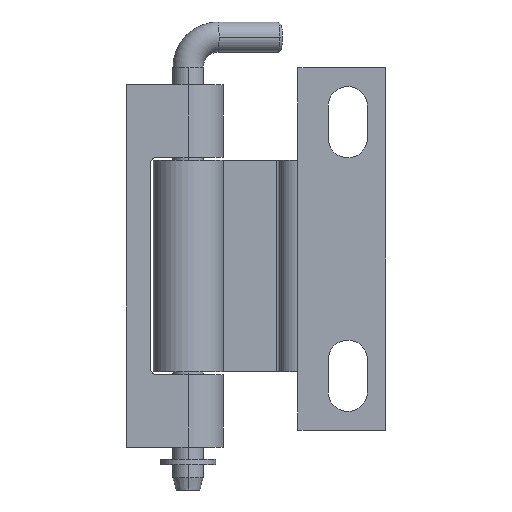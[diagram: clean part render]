
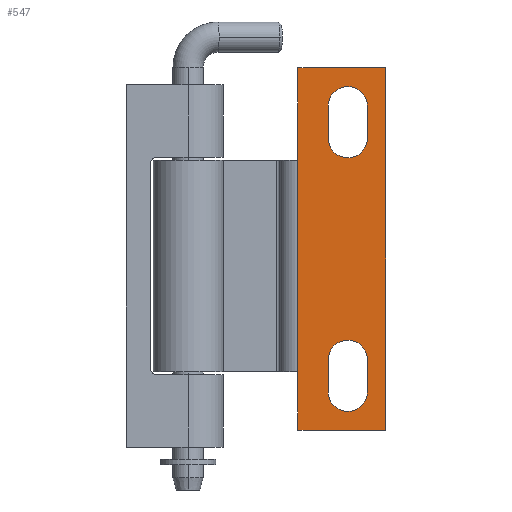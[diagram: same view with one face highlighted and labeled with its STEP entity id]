
A CAD part, front view. The second image highlights one B-rep face of the part: STEP entity #547.
In plain terms, the highlighted planar face has unit normal (0, -1, 0).
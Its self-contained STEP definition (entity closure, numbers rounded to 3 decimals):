
#12 = VECTOR ( 'NONE', #2232, 1000. ) ;
#13 = CARTESIAN_POINT ( 'NONE',  ( 29.7, -18.7, 53.65 ) ) ;
#24 = VERTEX_POINT ( 'NONE', #1828 ) ;
#62 = CARTESIAN_POINT ( 'NONE',  ( 26.45, -18.7, 48.35 ) ) ;
#101 = CARTESIAN_POINT ( 'NONE',  ( 23.2, -18.7, 53.65 ) ) ;
#121 = CARTESIAN_POINT ( 'NONE',  ( 18.2, -18.7, 60. ) ) ;
#135 = VERTEX_POINT ( 'NONE', #2117 ) ;
#142 = CARTESIAN_POINT ( 'NONE',  ( 26.45, -18.7, 11.65 ) ) ;
#181 = FACE_OUTER_BOUND ( 'NONE', #2687, .T. ) ;
#201 = LINE ( 'NONE', #262, #1844 ) ;
#206 = CARTESIAN_POINT ( 'NONE',  ( 26.45, -18.7, 11.65 ) ) ;
#230 = VECTOR ( 'NONE', #1804, 1000. ) ;
#234 = LINE ( 'NONE', #1342, #3507 ) ;
#262 = CARTESIAN_POINT ( 'NONE',  ( 17.7, -18.7, 60. ) ) ;
#312 = LINE ( 'NONE', #1058, #2694 ) ;
#372 = EDGE_CURVE ( 'NONE', #3488, #1203, #1204, .T. ) ;
#386 = CIRCLE ( 'NONE', #3362, 3.25 ) ;
#397 = CARTESIAN_POINT ( 'NONE',  ( 29.7, -18.7, 11.65 ) ) ;
#405 = CARTESIAN_POINT ( 'NONE',  ( 26.45, -18.7, 56.9 ) ) ;
#423 = ORIENTED_EDGE ( 'NONE', *, *, #2636, .T. ) ;
#426 = VERTEX_POINT ( 'NONE', #1766 ) ;
#428 = CARTESIAN_POINT ( 'NONE',  ( 23.2, -18.7, 11.65 ) ) ;
#485 = CARTESIAN_POINT ( 'NONE',  ( 26.45, -18.7, 14.9 ) ) ;
#544 = EDGE_CURVE ( 'NONE', #24, #3012, #787, .T. ) ;
#547 = ADVANCED_FACE ( 'NONE', ( #1307, #986, #181 ), #1236, .T. ) ;
#613 = DIRECTION ( 'NONE',  ( 0., 1., 0. ) ) ;
#629 = CARTESIAN_POINT ( 'NONE',  ( 29.7, -18.7, 53.65 ) ) ;
#683 = VERTEX_POINT ( 'NONE', #3003 ) ;
#689 = EDGE_CURVE ( 'NONE', #683, #1191, #312, .T. ) ;
#733 = EDGE_CURVE ( 'NONE', #849, #2142, #2719, .T. ) ;
#741 = VECTOR ( 'NONE', #1089, 1000. ) ;
#749 = CARTESIAN_POINT ( 'NONE',  ( 26.45, -18.7, 53.65 ) ) ;
#773 = VECTOR ( 'NONE', #2440, 1000. ) ;
#787 = CIRCLE ( 'NONE', #3430, 3.25 ) ;
#792 = DIRECTION ( 'NONE',  ( 0., 0., 1. ) ) ;
#812 = CIRCLE ( 'NONE', #1271, 3.25 ) ;
#849 = VERTEX_POINT ( 'NONE', #629 ) ;
#873 = LINE ( 'NONE', #2533, #12 ) ;
#884 = ORIENTED_EDGE ( 'NONE', *, *, #2584, .T. ) ;
#898 = ORIENTED_EDGE ( 'NONE', *, *, #733, .T. ) ;
#931 = EDGE_CURVE ( 'NONE', #2142, #3005, #812, .T. ) ;
#986 = FACE_BOUND ( 'NONE', #2896, .T. ) ;
#1058 = CARTESIAN_POINT ( 'NONE',  ( 17.7, -18.7, 0. ) ) ;
#1089 = DIRECTION ( 'NONE',  ( 0., 0., -1. ) ) ;
#1137 = EDGE_CURVE ( 'NONE', #1203, #135, #234, .T. ) ;
#1185 = ORIENTED_EDGE ( 'NONE', *, *, #3218, .F. ) ;
#1191 = VERTEX_POINT ( 'NONE', #1644 ) ;
#1203 = VERTEX_POINT ( 'NONE', #2479 ) ;
#1204 = LINE ( 'NONE', #121, #3479 ) ;
#1217 = DIRECTION ( 'NONE',  ( 0., 0., 1. ) ) ;
#1236 = PLANE ( 'NONE',  #1772 ) ;
#1271 = AXIS2_PLACEMENT_3D ( 'NONE', #62, #613, #1217 ) ;
#1281 = EDGE_CURVE ( 'NONE', #3012, #1441, #873, .T. ) ;
#1307 = FACE_BOUND ( 'NONE', #1716, .T. ) ;
#1312 = CIRCLE ( 'NONE', #1666, 3.25 ) ;
#1342 = CARTESIAN_POINT ( 'NONE',  ( 18.2, -18.7, 60. ) ) ;
#1361 = DIRECTION ( 'NONE',  ( 0., 0., -1. ) ) ;
#1382 = CARTESIAN_POINT ( 'NONE',  ( 32.7, -18.7, 60. ) ) ;
#1434 = AXIS2_PLACEMENT_3D ( 'NONE', #142, #3416, #3450 ) ;
#1441 = VERTEX_POINT ( 'NONE', #428 ) ;
#1548 = CARTESIAN_POINT ( 'NONE',  ( 18.2, -18.7, 0. ) ) ;
#1573 = EDGE_CURVE ( 'NONE', #1441, #3399, #2884, .T. ) ;
#1591 = DIRECTION ( 'NONE',  ( 0., 1., 0. ) ) ;
#1599 = CARTESIAN_POINT ( 'NONE',  ( 32.7, -18.7, 60. ) ) ;
#1644 = CARTESIAN_POINT ( 'NONE',  ( 18.2, -18.7, 0. ) ) ;
#1666 = AXIS2_PLACEMENT_3D ( 'NONE', #1696, #2797, #2260 ) ;
#1670 = LINE ( 'NONE', #1548, #741 ) ;
#1696 = CARTESIAN_POINT ( 'NONE',  ( 26.45, -18.7, 53.65 ) ) ;
#1716 = EDGE_LOOP ( 'NONE', ( #2714, #2540, #898, #3203, #3351 ) ) ;
#1719 = VECTOR ( 'NONE', #3355, 1000. ) ;
#1740 = LINE ( 'NONE', #397, #1719 ) ;
#1766 = CARTESIAN_POINT ( 'NONE',  ( 29.7, -18.7, 11.65 ) ) ;
#1772 = AXIS2_PLACEMENT_3D ( 'NONE', #2342, #2096, #2669 ) ;
#1797 = CARTESIAN_POINT ( 'NONE',  ( 18.2, -18.7, 60. ) ) ;
#1804 = DIRECTION ( 'NONE',  ( 0., 0., 1. ) ) ;
#1828 = CARTESIAN_POINT ( 'NONE',  ( 29.7, -18.7, 6.35 ) ) ;
#1844 = VECTOR ( 'NONE', #2217, 1000. ) ;
#1857 = DIRECTION ( 'NONE',  ( 0., 1., 0. ) ) ;
#1869 = ORIENTED_EDGE ( 'NONE', *, *, #1971, .T. ) ;
#1888 = EDGE_CURVE ( 'NONE', #1945, #2396, #1312, .T. ) ;
#1945 = VERTEX_POINT ( 'NONE', #3184 ) ;
#1971 = EDGE_CURVE ( 'NONE', #3399, #426, #2989, .T. ) ;
#2096 = DIRECTION ( 'NONE',  ( 0., -1., 0. ) ) ;
#2108 = CARTESIAN_POINT ( 'NONE',  ( 23.2, -18.7, 6.35 ) ) ;
#2117 = CARTESIAN_POINT ( 'NONE',  ( 18.2, -18.7, 9.689 ) ) ;
#2142 = VERTEX_POINT ( 'NONE', #2411 ) ;
#2200 = AXIS2_PLACEMENT_3D ( 'NONE', #206, #1591, #792 ) ;
#2217 = DIRECTION ( 'NONE',  ( -1., 0., 0. ) ) ;
#2232 = DIRECTION ( 'NONE',  ( 0., 0., 1. ) ) ;
#2260 = DIRECTION ( 'NONE',  ( 0., 0., 1. ) ) ;
#2342 = CARTESIAN_POINT ( 'NONE',  ( 17.7, -18.7, 60. ) ) ;
#2361 = CARTESIAN_POINT ( 'NONE',  ( 26.45, -18.7, 6.35 ) ) ;
#2396 = VERTEX_POINT ( 'NONE', #405 ) ;
#2400 = ORIENTED_EDGE ( 'NONE', *, *, #372, .T. ) ;
#2405 = EDGE_CURVE ( 'NONE', #3005, #1945, #2556, .T. ) ;
#2408 = DIRECTION ( 'NONE',  ( 0., 1., 0. ) ) ;
#2411 = CARTESIAN_POINT ( 'NONE',  ( 29.7, -18.7, 48.35 ) ) ;
#2440 = DIRECTION ( 'NONE',  ( 0., 0., -1. ) ) ;
#2442 = DIRECTION ( 'NONE',  ( 0., 0., -1. ) ) ;
#2479 = CARTESIAN_POINT ( 'NONE',  ( 18.2, -18.7, 44.689 ) ) ;
#2486 = DIRECTION ( 'NONE',  ( -1., 0., 0. ) ) ;
#2487 = VECTOR ( 'NONE', #2442, 1000. ) ;
#2533 = CARTESIAN_POINT ( 'NONE',  ( 23.2, -18.7, 11.65 ) ) ;
#2540 = ORIENTED_EDGE ( 'NONE', *, *, #3050, .T. ) ;
#2556 = LINE ( 'NONE', #101, #230 ) ;
#2584 = EDGE_CURVE ( 'NONE', #3228, #3488, #201, .T. ) ;
#2636 = EDGE_CURVE ( 'NONE', #135, #1191, #1670, .T. ) ;
#2665 = CARTESIAN_POINT ( 'NONE',  ( 23.2, -18.7, 48.35 ) ) ;
#2669 = DIRECTION ( 'NONE',  ( 0., 0., -1. ) ) ;
#2682 = DIRECTION ( 'NONE',  ( 0., 0., 1. ) ) ;
#2687 = EDGE_LOOP ( 'NONE', ( #3105, #1185, #884, #2400, #3129, #423 ) ) ;
#2694 = VECTOR ( 'NONE', #2486, 1000. ) ;
#2714 = ORIENTED_EDGE ( 'NONE', *, *, #1888, .T. ) ;
#2719 = LINE ( 'NONE', #13, #2487 ) ;
#2751 = LINE ( 'NONE', #1599, #773 ) ;
#2797 = DIRECTION ( 'NONE',  ( 0., 1., 0. ) ) ;
#2884 = CIRCLE ( 'NONE', #2200, 3.25 ) ;
#2896 = EDGE_LOOP ( 'NONE', ( #2917, #1869, #3487, #3418, #3249 ) ) ;
#2917 = ORIENTED_EDGE ( 'NONE', *, *, #1573, .T. ) ;
#2989 = CIRCLE ( 'NONE', #1434, 3.25 ) ;
#3003 = CARTESIAN_POINT ( 'NONE',  ( 32.7, -18.7, 0. ) ) ;
#3005 = VERTEX_POINT ( 'NONE', #2665 ) ;
#3012 = VERTEX_POINT ( 'NONE', #2108 ) ;
#3050 = EDGE_CURVE ( 'NONE', #2396, #849, #386, .T. ) ;
#3105 = ORIENTED_EDGE ( 'NONE', *, *, #689, .F. ) ;
#3129 = ORIENTED_EDGE ( 'NONE', *, *, #1137, .T. ) ;
#3184 = CARTESIAN_POINT ( 'NONE',  ( 23.2, -18.7, 53.65 ) ) ;
#3203 = ORIENTED_EDGE ( 'NONE', *, *, #931, .T. ) ;
#3218 = EDGE_CURVE ( 'NONE', #3228, #683, #2751, .T. ) ;
#3228 = VERTEX_POINT ( 'NONE', #1382 ) ;
#3237 = DIRECTION ( 'NONE',  ( 0., 0., 1. ) ) ;
#3249 = ORIENTED_EDGE ( 'NONE', *, *, #1281, .T. ) ;
#3346 = EDGE_CURVE ( 'NONE', #426, #24, #1740, .T. ) ;
#3351 = ORIENTED_EDGE ( 'NONE', *, *, #2405, .T. ) ;
#3355 = DIRECTION ( 'NONE',  ( 0., 0., -1. ) ) ;
#3362 = AXIS2_PLACEMENT_3D ( 'NONE', #749, #1857, #2682 ) ;
#3399 = VERTEX_POINT ( 'NONE', #485 ) ;
#3416 = DIRECTION ( 'NONE',  ( 0., 1., 0. ) ) ;
#3418 = ORIENTED_EDGE ( 'NONE', *, *, #544, .T. ) ;
#3430 = AXIS2_PLACEMENT_3D ( 'NONE', #2361, #2408, #3237 ) ;
#3450 = DIRECTION ( 'NONE',  ( 0., 0., 1. ) ) ;
#3479 = VECTOR ( 'NONE', #3551, 1000. ) ;
#3487 = ORIENTED_EDGE ( 'NONE', *, *, #3346, .T. ) ;
#3488 = VERTEX_POINT ( 'NONE', #1797 ) ;
#3507 = VECTOR ( 'NONE', #1361, 1000. ) ;
#3551 = DIRECTION ( 'NONE',  ( 0., 0., -1. ) ) ;
